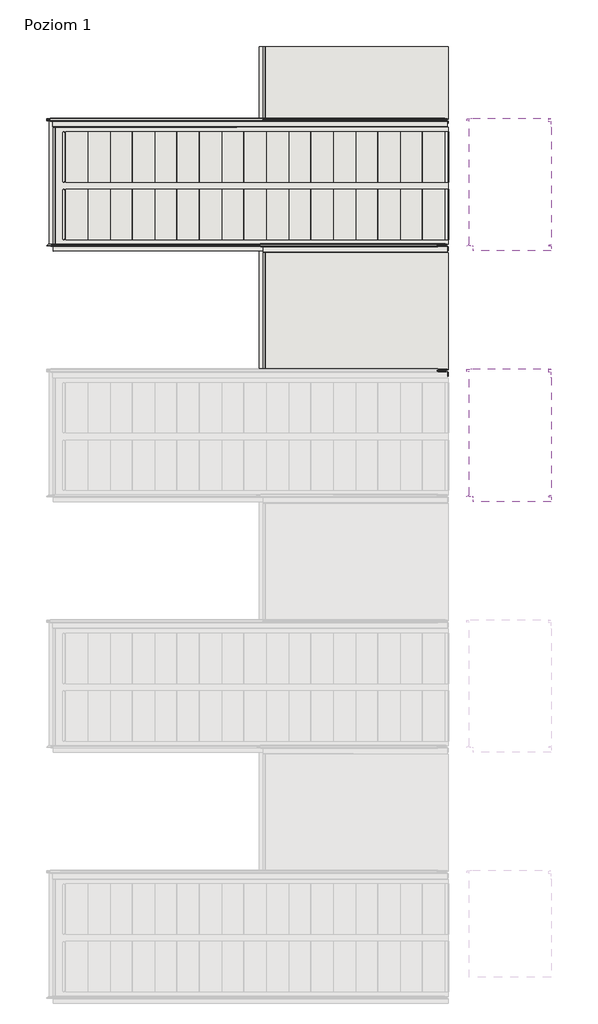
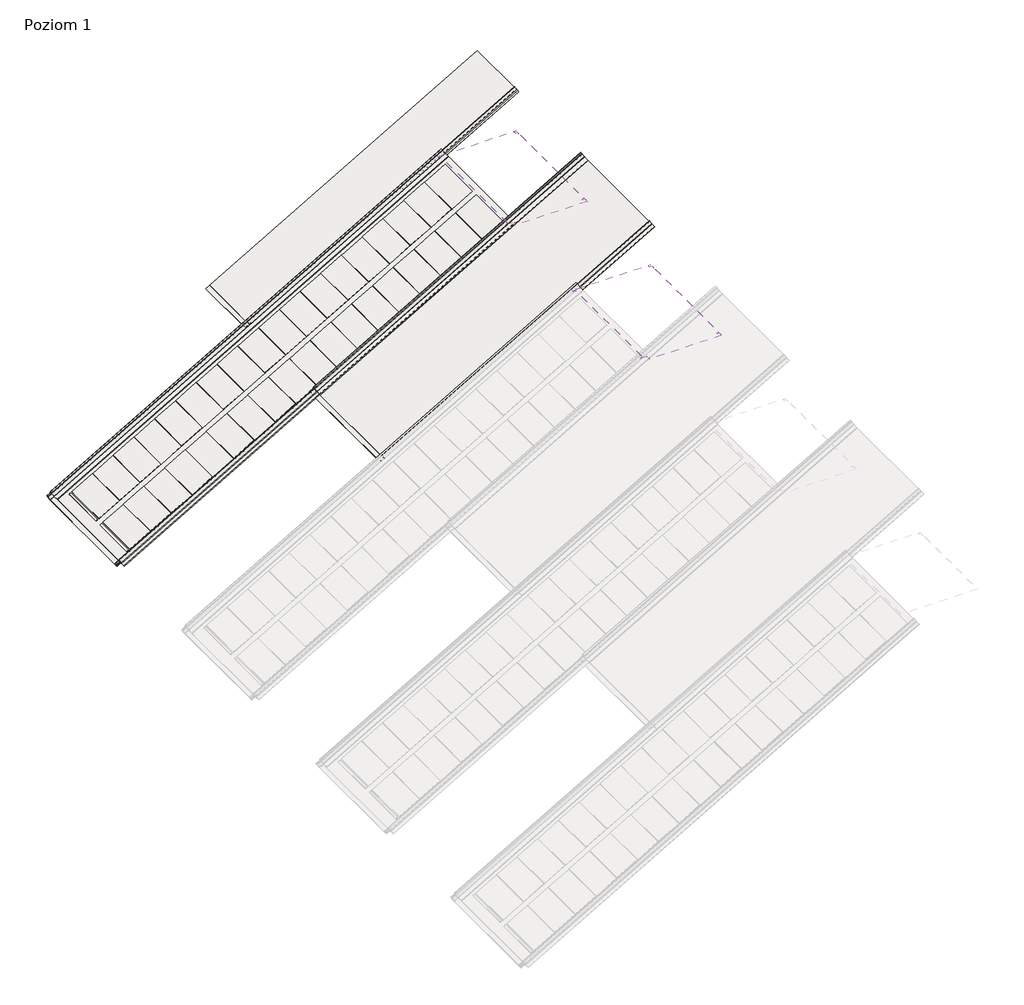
# One storey, part 5 of 5: 5 coverings.
"""IFC4 building model written with IfcOpenShell, lengths in millimetres."""

from ifc_helpers import new_model, si_unit, point, frame, frame_2d, origin, place, context, project, spatial, polyline, circle_curve, trimmed, segment, composite_curve, outline, extrude, transform, mapped, element, save
from components import covering_053faf2b

model = new_model("IFC4")

# Units and contexts
model_context = context("Model", 3, world=origin())
ifc_project = project(units=[si_unit("LENGTHUNIT", "METRE", prefix="MILLI")], contexts=[model_context])

# Site, building, storey
site = spatial("IfcSite", under=ifc_project)
building = spatial("IfcBuilding", under=site)
storey = spatial("IfcBuildingStorey", under=building, Name="Poziom 1", Elevation=3000.0)

# Coverings
placement = place(None, origin())
element("IfcCovering", 1, ObjectType="Zintegrowany dach fotowoltaiczny FIT L.P (pojedynczy arkusz) : Zintegrowany dach fotowoltaiczny FIT L.P (pojedynczy arkusz)", at=placement, inside=storey, context=model_context, shape_type="SweptSolid", body=[
    extrude(outline(composite_curve([segment(polyline([(17.2875351, 0.0), (0.0, 0.0)]), True, "CONTINUOUS"), segment(trimmed(circle_curve(frame_2d((0.0, -2.8)), 2.8), [point((0.0, 0.0))], [point((-2.8, -2.8))], True, "CARTESIAN"), True, "CONTINUOUS"), segment(polyline([(-2.8, -2.8), (-2.8, -20.5940327)]), True, "CONTINUOUS"), segment(trimmed(circle_curve(frame_2d((-4.4133269, -20.3837808)), 1.6269694), [point((-2.8, -20.5940327))], [point((-5.8290282, -21.185541))], False, "CARTESIAN"), True, "CONTINUOUS"), segment(polyline([(-5.8290282, -21.185541), (-11.2859094, -8.622424)]), True, "CONTINUOUS"), segment(trimmed(circle_curve(frame_2d((-9.3224649, -7.4245569)), 2.3), [point((-11.2859094, -8.622424))], [point((-10.3763841, -5.3802344))], False, "CARTESIAN"), True, "CONTINUOUS"), segment(polyline([(-10.3763841, -5.3802344), (-8.7036849, -4.7047108)]), True, "CONTINUOUS"), segment(trimmed(circle_curve(frame_2d((-9.0408607, -3.8698124)), 0.9004126), [point((-8.7036849, -4.7047108))], [point((-8.2514257, -3.4367591))], True, "CARTESIAN"), True, "CONTINUOUS"), segment(polyline([(-8.2514257, -3.4367591), (-10.1366978, 0.0), (-502.4735079, 0.0), (-504.4735079, -2.0), (-527.0645253, -2.0)]), True, "CONTINUOUS"), segment(trimmed(circle_curve(frame_2d((-527.0645253, -2.82435)), 0.82435), [point((-527.0645253, -2.0))], [point((-527.8888753, -2.82435))], True, "CARTESIAN"), True, "CONTINUOUS"), segment(polyline([(-527.8888753, -2.82435), (-527.8888753, -21.4999999)]), True, "CONTINUOUS"), segment(trimmed(circle_curve(frame_2d((-529.8888753, -21.4999999)), 2.0), [point((-527.8888753, -21.4999999))], [point((-529.8888753, -23.5))], False, "CARTESIAN"), True, "CONTINUOUS"), segment(polyline([(-529.8888753, -23.5), (-538.7124649, -23.5)]), True, "CONTINUOUS"), segment(trimmed(circle_curve(frame_2d((-538.7124649, -21.4999999)), 2.0), [point((-538.7124649, -23.5))], [point((-540.7124649, -21.4999999))], False, "CARTESIAN"), True, "CONTINUOUS"), segment(polyline([(-540.7124649, -21.4999999), (-540.7124649, -7.4245569)]), True, "CONTINUOUS"), segment(trimmed(circle_curve(frame_2d((-536.9124649, -7.4245569)), 3.8), [point((-540.7124649, -7.4245569))], [point((-538.602078, -4.0208519))], False, "CARTESIAN"), True, "CONTINUOUS"), segment(trimmed(circle_curve(frame_2d((-539.1177488, -2.9820395)), 1.1597619), [point((-538.602078, -4.0208519))], [point((-537.9725591, -2.798769))], True, "CARTESIAN"), True, "CONTINUOUS"), segment(polyline([(-537.9725591, -2.798769), (-538.8089749, -1.2740237), (-537.9322268, -0.7930739), (-537.1002451, -2.309736)]), True, "CONTINUOUS"), segment(trimmed(circle_curve(frame_2d((-538.6177488, -2.9820395)), 1.6597619), [point((-537.1002451, -2.309736))], [point((-537.8797605, -4.4687078))], False, "CARTESIAN"), True, "CONTINUOUS"), segment(trimmed(circle_curve(frame_2d((-536.4124649, -7.4245569)), 3.3), [point((-537.8797605, -4.4687078))], [point((-539.7124649, -7.4245569))], True, "CARTESIAN"), True, "CONTINUOUS"), segment(polyline([(-539.7124649, -7.4245569), (-539.7124649, -20.9999999)]), True, "CONTINUOUS"), segment(trimmed(circle_curve(frame_2d((-538.2124649, -20.9999999)), 1.5), [point((-539.7124649, -20.9999999))], [point((-538.2124649, -22.4999999))], True, "CARTESIAN"), True, "CONTINUOUS"), segment(polyline([(-538.2124649, -22.4999999), (-530.3888753, -22.4999999)]), True, "CONTINUOUS"), segment(trimmed(circle_curve(frame_2d((-530.3888753, -20.9999999)), 1.5), [point((-530.3888753, -22.4999999))], [point((-528.8888753, -20.9999999))], True, "CARTESIAN"), True, "CONTINUOUS"), segment(polyline([(-528.8888753, -20.9999999), (-528.8888753, -2.7363796)]), True, "CONTINUOUS"), segment(trimmed(circle_curve(frame_2d((-527.09, -2.8)), 1.8), [point((-528.8888753, -2.7363796))], [point((-527.09, -1.0))], False, "CARTESIAN"), True, "CONTINUOUS"), segment(polyline([(-527.09, -1.0), (-504.8877215, -1.0), (-502.8877215, 1.0), (-10.497252, 1.0)]), True, "CONTINUOUS"), segment(trimmed(circle_curve(frame_2d((-10.7205789, -0.9874922)), 2.0), [point((-10.497252, 1.0))], [point((-9.0887306, 0.1688258))], False, "CARTESIAN"), True, "CONTINUOUS"), segment(polyline([(-9.0887306, 0.1688258), (-7.1040334, -3.4491804)]), True, "CONTINUOUS"), segment(trimmed(circle_curve(frame_2d((-8.3318425, -4.1227085)), 1.4004126), [point((-7.1040334, -3.4491804))], [point((-7.8074327, -5.4212269))], False, "CARTESIAN"), True, "CONTINUOUS"), segment(polyline([(-7.8074327, -5.4212269), (-9.9530757, -6.28775)]), True, "CONTINUOUS"), segment(trimmed(circle_curve(frame_2d((-9.3224649, -7.4245569)), 1.3), [point((-9.9530757, -6.28775))], [point((-10.4001629, -8.151583))], True, "CARTESIAN"), True, "CONTINUOUS"), segment(polyline([(-10.4001629, -8.151583), (-4.9378013, -20.7273172)]), True, "CONTINUOUS"), segment(trimmed(circle_curve(frame_2d((-4.4133269, -20.3837808)), 0.6269694), [point((-4.9378013, -20.7273172))], [point((-3.8, -20.5138607))], True, "CARTESIAN"), True, "CONTINUOUS"), segment(polyline([(-3.8, -20.5138607), (-3.8, -2.8)]), True, "CONTINUOUS"), segment(trimmed(circle_curve(frame_2d((0.0, -2.8)), 3.8), [point((-3.8, -2.8))], [point((0.0, 1.0))], False, "CARTESIAN"), True, "CONTINUOUS"), segment(polyline([(0.0, 1.0), (17.2875351, 1.0), (17.2875351, 0.0)]), True, "CONTINUOUS")], self_intersect=False)), frame((597.6506789, -496.5102619, 4261.5544457), z_axis=(0.8660254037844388, 0.0, 0.4999999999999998), x_axis=(0.0, -1.0, 0.0)), (0.0, 0.0, 1.0), 376.4773133),
    extrude(outline(composite_curve([segment(polyline([(28.1680323, -535.9799253), (40.9033235, -530.4482589)]), True, "CONTINUOUS"), segment(trimmed(circle_curve(frame_2d((41.6303496, -531.525957)), 1.3), [point((40.9033235, -530.4482589))], [point((42.7671565, -530.8953461))], False, "CARTESIAN"), True, "CONTINUOUS"), segment(polyline([(42.7671565, -530.8953461), (43.9725969, -533.8801997)]), True, "CONTINUOUS"), segment(trimmed(circle_curve(frame_2d((44.6041589, -533.6251419)), 0.6811204), [point((43.9725969, -533.8801997))], [point((44.9317436, -534.2223129))], True, "CARTESIAN"), True, "CONTINUOUS"), segment(polyline([(44.9317436, -534.2223129), (49.9999999, -531.442065), (49.9999999, -11.6479396)]), True, "CONTINUOUS"), segment(trimmed(circle_curve(frame_2d((49.17565, -11.6479396)), 0.82435), [point((49.9999999, -11.6479396))], [point((49.17565, -10.8235896))], True, "CARTESIAN"), True, "CONTINUOUS"), segment(polyline([(49.17565, -10.8235896), (30.0, -10.8235896)]), True, "CONTINUOUS"), segment(trimmed(circle_curve(frame_2d((30.0, -8.8235896)), 2.0), [point((30.0, -10.8235896))], [point((28.0, -8.8235896))], False, "CARTESIAN"), True, "CONTINUOUS"), segment(polyline([(28.0, -8.8235896), (28.0, -4.0)]), True, "CONTINUOUS"), segment(trimmed(circle_curve(frame_2d((30.0, -4.0)), 2.0), [point((28.0, -4.0))], [point((30.0, -2.0))], False, "CARTESIAN"), True, "CONTINUOUS"), segment(polyline([(30.0, -2.0), (42.075443, -2.0)]), True, "CONTINUOUS"), segment(trimmed(circle_curve(frame_2d((42.075443, -5.8)), 3.8), [point((42.075443, -2.0))], [point((45.479148, -4.1103869))], False, "CARTESIAN"), True, "CONTINUOUS"), segment(trimmed(circle_curve(frame_2d((46.5179605, -3.5947161)), 1.1597619), [point((45.479148, -4.1103869))], [point((46.7012309, -4.7399058))], True, "CARTESIAN"), True, "CONTINUOUS"), segment(polyline([(46.7012309, -4.7399058), (48.2259762, -3.90349), (48.7069261, -4.7802381), (47.190264, -5.6122198)]), True, "CONTINUOUS"), segment(trimmed(circle_curve(frame_2d((46.5179605, -4.0947161)), 1.6597619), [point((47.190264, -5.6122198))], [point((45.0312921, -4.8327044))], False, "CARTESIAN"), True, "CONTINUOUS"), segment(trimmed(circle_curve(frame_2d((42.075443, -6.3)), 3.3), [point((45.0312921, -4.8327044))], [point((42.075443, -3.0))], True, "CARTESIAN"), True, "CONTINUOUS"), segment(polyline([(42.075443, -3.0), (30.5, -3.0)]), True, "CONTINUOUS"), segment(trimmed(circle_curve(frame_2d((30.5, -4.5)), 1.5), [point((30.5, -3.0))], [point((29.0, -4.5))], True, "CARTESIAN"), True, "CONTINUOUS"), segment(polyline([(29.0, -4.5), (29.0, -8.3235896)]), True, "CONTINUOUS"), segment(trimmed(circle_curve(frame_2d((30.5, -8.3235896)), 1.5), [point((29.0, -8.3235896))], [point((30.5, -9.8235896))], True, "CARTESIAN"), True, "CONTINUOUS"), segment(polyline([(30.5, -9.8235896), (49.2636204, -9.8235896)]), True, "CONTINUOUS"), segment(trimmed(circle_curve(frame_2d((49.1999999, -11.6224649)), 1.8), [point((49.2636204, -9.8235896))], [point((50.9999999, -11.6224649))], False, "CARTESIAN"), True, "CONTINUOUS"), segment(polyline([(50.9999999, -11.6224649), (50.9999999, -530.8500476)]), True, "CONTINUOUS"), segment(trimmed(circle_curve(frame_2d((48.9999999, -530.8500476)), 2.0), [point((50.9999999, -530.8500476))], [point((49.9618997, -532.6035438))], False, "CARTESIAN"), True, "CONTINUOUS"), segment(polyline([(49.9618997, -532.6035438), (45.1357072, -535.2510049)]), True, "CONTINUOUS"), segment(trimmed(circle_curve(frame_2d((44.462179, -534.0231958)), 1.4004126), [point((45.1357072, -535.2510049))], [point((43.1636607, -534.5476056))], False, "CARTESIAN"), True, "CONTINUOUS"), segment(polyline([(43.1636607, -534.5476056), (41.792464, -531.152314), (28.7259873, -536.8278332)]), True, "CONTINUOUS"), segment(trimmed(circle_curve(frame_2d((28.5207601, -536.3553487)), 0.5151308), [point((28.7259873, -536.8278332))], [point((28.1680323, -535.9799253))], False, "CARTESIAN"), True, "CONTINUOUS")], self_intersect=False)), frame((555.8301708, 44.202203, 4293.9896904), z_axis=(0.8660254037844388, 0.0, 0.4999999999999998), x_axis=(0.4999999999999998, 0.0, -0.8660254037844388)), (0.0, 0.0, 1.0), 30.0),
])
element("IfcCovering", 2, ObjectType="Zintegrowany dach fotowoltaiczny FIT L.P (pojedynczy arkusz) : Zintegrowany dach fotowoltaiczny FIT L.P (pojedynczy arkusz)", at=placement, inside=storey, context=model_context, shape_type="SweptSolid", body=[
    extrude(outline(composite_curve([segment(polyline([(17.2875351, 0.0), (0.0, 0.0)]), True, "CONTINUOUS"), segment(trimmed(circle_curve(frame_2d((0.0, -2.8)), 2.8), [point((0.0, 0.0))], [point((-2.8, -2.8))], True, "CARTESIAN"), True, "CONTINUOUS"), segment(polyline([(-2.8, -2.8), (-2.8, -20.5940327)]), True, "CONTINUOUS"), segment(trimmed(circle_curve(frame_2d((-4.4133269, -20.3837808)), 1.6269694), [point((-2.8, -20.5940327))], [point((-5.8290282, -21.185541))], False, "CARTESIAN"), True, "CONTINUOUS"), segment(polyline([(-5.8290282, -21.185541), (-11.2859094, -8.622424)]), True, "CONTINUOUS"), segment(trimmed(circle_curve(frame_2d((-9.3224649, -7.4245569)), 2.3), [point((-11.2859094, -8.622424))], [point((-10.3763841, -5.3802344))], False, "CARTESIAN"), True, "CONTINUOUS"), segment(polyline([(-10.3763841, -5.3802344), (-8.7036849, -4.7047108)]), True, "CONTINUOUS"), segment(trimmed(circle_curve(frame_2d((-9.0408607, -3.8698124)), 0.9004126), [point((-8.7036849, -4.7047108))], [point((-8.2514257, -3.4367591))], True, "CARTESIAN"), True, "CONTINUOUS"), segment(polyline([(-8.2514257, -3.4367591), (-10.1366978, 0.0), (-502.4735079, 0.0), (-504.4735079, -2.0), (-527.0645253, -2.0)]), True, "CONTINUOUS"), segment(trimmed(circle_curve(frame_2d((-527.0645253, -2.82435)), 0.82435), [point((-527.0645253, -2.0))], [point((-527.8888753, -2.82435))], True, "CARTESIAN"), True, "CONTINUOUS"), segment(polyline([(-527.8888753, -2.82435), (-527.8888753, -21.4999999)]), True, "CONTINUOUS"), segment(trimmed(circle_curve(frame_2d((-529.8888753, -21.4999999)), 2.0), [point((-527.8888753, -21.4999999))], [point((-529.8888753, -23.5))], False, "CARTESIAN"), True, "CONTINUOUS"), segment(polyline([(-529.8888753, -23.5), (-538.7124649, -23.5)]), True, "CONTINUOUS"), segment(trimmed(circle_curve(frame_2d((-538.7124649, -21.4999999)), 2.0), [point((-538.7124649, -23.5))], [point((-540.7124649, -21.4999999))], False, "CARTESIAN"), True, "CONTINUOUS"), segment(polyline([(-540.7124649, -21.4999999), (-540.7124649, -7.4245569)]), True, "CONTINUOUS"), segment(trimmed(circle_curve(frame_2d((-536.9124649, -7.4245569)), 3.8), [point((-540.7124649, -7.4245569))], [point((-538.602078, -4.0208519))], False, "CARTESIAN"), True, "CONTINUOUS"), segment(trimmed(circle_curve(frame_2d((-539.1177488, -2.9820394)), 1.1597619), [point((-538.602078, -4.0208519))], [point((-537.9725591, -2.798769))], True, "CARTESIAN"), True, "CONTINUOUS"), segment(polyline([(-537.9725591, -2.798769), (-538.8089749, -1.2740237), (-537.9322268, -0.7930738), (-537.1002451, -2.3097359)]), True, "CONTINUOUS"), segment(trimmed(circle_curve(frame_2d((-538.6177488, -2.9820394)), 1.6597619), [point((-537.1002451, -2.3097359))], [point((-537.8797605, -4.4687078))], False, "CARTESIAN"), True, "CONTINUOUS"), segment(trimmed(circle_curve(frame_2d((-536.4124649, -7.4245569)), 3.3), [point((-537.8797605, -4.4687078))], [point((-539.7124649, -7.4245569))], True, "CARTESIAN"), True, "CONTINUOUS"), segment(polyline([(-539.7124649, -7.4245569), (-539.7124649, -20.9999999)]), True, "CONTINUOUS"), segment(trimmed(circle_curve(frame_2d((-538.2124649, -20.9999999)), 1.5), [point((-539.7124649, -20.9999999))], [point((-538.2124649, -22.4999999))], True, "CARTESIAN"), True, "CONTINUOUS"), segment(polyline([(-538.2124649, -22.4999999), (-530.3888753, -22.4999999)]), True, "CONTINUOUS"), segment(trimmed(circle_curve(frame_2d((-530.3888753, -20.9999999)), 1.5), [point((-530.3888753, -22.4999999))], [point((-528.8888753, -20.9999999))], True, "CARTESIAN"), True, "CONTINUOUS"), segment(polyline([(-528.8888753, -20.9999999), (-528.8888753, -2.7363796)]), True, "CONTINUOUS"), segment(trimmed(circle_curve(frame_2d((-527.09, -2.8)), 1.8), [point((-528.8888753, -2.7363796))], [point((-527.09, -1.0))], False, "CARTESIAN"), True, "CONTINUOUS"), segment(polyline([(-527.09, -1.0), (-504.8877215, -1.0), (-502.8877215, 1.0), (-10.497252, 1.0)]), True, "CONTINUOUS"), segment(trimmed(circle_curve(frame_2d((-10.7205789, -0.9874921)), 2.0), [point((-10.497252, 1.0))], [point((-9.0887306, 0.1688258))], False, "CARTESIAN"), True, "CONTINUOUS"), segment(polyline([(-9.0887306, 0.1688258), (-7.1040334, -3.4491804)]), True, "CONTINUOUS"), segment(trimmed(circle_curve(frame_2d((-8.3318425, -4.1227085)), 1.4004126), [point((-7.1040334, -3.4491804))], [point((-7.8074327, -5.4212269))], False, "CARTESIAN"), True, "CONTINUOUS"), segment(polyline([(-7.8074327, -5.4212269), (-9.9530757, -6.2877499)]), True, "CONTINUOUS"), segment(trimmed(circle_curve(frame_2d((-9.3224649, -7.4245569)), 1.3), [point((-9.9530757, -6.2877499))], [point((-10.4001629, -8.151583))], True, "CARTESIAN"), True, "CONTINUOUS"), segment(polyline([(-10.4001629, -8.151583), (-4.9378013, -20.7273172)]), True, "CONTINUOUS"), segment(trimmed(circle_curve(frame_2d((-4.4133269, -20.3837808)), 0.6269694), [point((-4.9378013, -20.7273172))], [point((-3.8, -20.5138607))], True, "CARTESIAN"), True, "CONTINUOUS"), segment(polyline([(-3.8, -20.5138607), (-3.8, -2.8)]), True, "CONTINUOUS"), segment(trimmed(circle_curve(frame_2d((0.0, -2.8)), 3.8), [point((-3.8, -2.8))], [point((0.0, 1.0))], False, "CARTESIAN"), True, "CONTINUOUS"), segment(polyline([(0.0, 1.0), (17.2875351, 1.0), (17.2875351, 0.0)]), True, "CONTINUOUS")], self_intersect=False)), frame((-285.695233, 30.4897381, 3751.5544457), z_axis=(0.8660254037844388, 0.0, 0.4999999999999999), x_axis=(0.0, -1.0, 0.0)), (0.0, 0.0, 1.0), 1396.4773133),
    extrude(outline(composite_curve([segment(polyline([(28.1680322, -535.9799253), (40.9033234, -530.4482589)]), True, "CONTINUOUS"), segment(trimmed(circle_curve(frame_2d((41.6303496, -531.525957)), 1.3), [point((40.9033234, -530.4482589))], [point((42.7671565, -530.8953461))], False, "CARTESIAN"), True, "CONTINUOUS"), segment(polyline([(42.7671565, -530.8953461), (43.9725969, -533.8801997)]), True, "CONTINUOUS"), segment(trimmed(circle_curve(frame_2d((44.6041589, -533.6251419)), 0.6811204), [point((43.9725969, -533.8801997))], [point((44.9317436, -534.2223129))], True, "CARTESIAN"), True, "CONTINUOUS"), segment(polyline([(44.9317436, -534.2223129), (49.9999999, -531.442065), (49.9999999, -11.6479396)]), True, "CONTINUOUS"), segment(trimmed(circle_curve(frame_2d((49.17565, -11.6479396)), 0.82435), [point((49.9999999, -11.6479396))], [point((49.17565, -10.8235896))], True, "CARTESIAN"), True, "CONTINUOUS"), segment(polyline([(49.17565, -10.8235896), (30.0, -10.8235896)]), True, "CONTINUOUS"), segment(trimmed(circle_curve(frame_2d((30.0, -8.8235896)), 2.0), [point((30.0, -10.8235896))], [point((28.0, -8.8235896))], False, "CARTESIAN"), True, "CONTINUOUS"), segment(polyline([(28.0, -8.8235896), (28.0, -4.0)]), True, "CONTINUOUS"), segment(trimmed(circle_curve(frame_2d((30.0, -4.0)), 2.0), [point((28.0, -4.0))], [point((30.0, -2.0))], False, "CARTESIAN"), True, "CONTINUOUS"), segment(polyline([(30.0, -2.0), (42.075443, -2.0)]), True, "CONTINUOUS"), segment(trimmed(circle_curve(frame_2d((42.075443, -5.8)), 3.8), [point((42.075443, -2.0))], [point((45.479148, -4.1103869))], False, "CARTESIAN"), True, "CONTINUOUS"), segment(trimmed(circle_curve(frame_2d((46.5179605, -3.5947161)), 1.1597619), [point((45.479148, -4.1103869))], [point((46.7012308, -4.7399058))], True, "CARTESIAN"), True, "CONTINUOUS"), segment(polyline([(46.7012308, -4.7399058), (48.2259762, -3.90349), (48.706926, -4.7802381), (47.190264, -5.6122198)]), True, "CONTINUOUS"), segment(trimmed(circle_curve(frame_2d((46.5179605, -4.0947161)), 1.6597619), [point((47.190264, -5.6122198))], [point((45.0312921, -4.8327044))], False, "CARTESIAN"), True, "CONTINUOUS"), segment(trimmed(circle_curve(frame_2d((42.075443, -6.3)), 3.3), [point((45.0312921, -4.8327044))], [point((42.075443, -3.0))], True, "CARTESIAN"), True, "CONTINUOUS"), segment(polyline([(42.075443, -3.0), (30.5, -3.0)]), True, "CONTINUOUS"), segment(trimmed(circle_curve(frame_2d((30.5, -4.5)), 1.5), [point((30.5, -3.0))], [point((29.0, -4.5))], True, "CARTESIAN"), True, "CONTINUOUS"), segment(polyline([(29.0, -4.5), (29.0, -8.3235896)]), True, "CONTINUOUS"), segment(trimmed(circle_curve(frame_2d((30.5, -8.3235896)), 1.5), [point((29.0, -8.3235896))], [point((30.5, -9.8235896))], True, "CARTESIAN"), True, "CONTINUOUS"), segment(polyline([(30.5, -9.8235896), (49.2636204, -9.8235896)]), True, "CONTINUOUS"), segment(trimmed(circle_curve(frame_2d((49.1999999, -11.6224649)), 1.8), [point((49.2636204, -9.8235896))], [point((50.9999999, -11.6224649))], False, "CARTESIAN"), True, "CONTINUOUS"), segment(polyline([(50.9999999, -11.6224649), (50.9999999, -530.8500476)]), True, "CONTINUOUS"), segment(trimmed(circle_curve(frame_2d((48.9999999, -530.8500476)), 2.0), [point((50.9999999, -530.8500476))], [point((49.9618996, -532.6035438))], False, "CARTESIAN"), True, "CONTINUOUS"), segment(polyline([(49.9618996, -532.6035438), (45.1357072, -535.2510049)]), True, "CONTINUOUS"), segment(trimmed(circle_curve(frame_2d((44.462179, -534.0231958)), 1.4004126), [point((45.1357072, -535.2510049))], [point((43.1636607, -534.5476056))], False, "CARTESIAN"), True, "CONTINUOUS"), segment(polyline([(43.1636607, -534.5476056), (41.792464, -531.152314), (28.7259872, -536.8278332)]), True, "CONTINUOUS"), segment(trimmed(circle_curve(frame_2d((28.5207601, -536.3553487)), 0.5151308), [point((28.7259872, -536.8278332))], [point((28.1680322, -535.9799253))], False, "CARTESIAN"), True, "CONTINUOUS")], self_intersect=False)), frame((-327.515741, 571.202203, 3783.9896904), z_axis=(0.8660254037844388, 0.0, 0.4999999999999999), x_axis=(0.4999999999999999, 0.0, -0.8660254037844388)), (0.0, 0.0, 1.0), 30.0),
])
element("IfcCovering", 3, ObjectType="Zintegrowany dach fotowoltaiczny FIT L.P (pojedynczy arkusz) : Zintegrowany dach fotowoltaiczny FIT L.P (pojedynczy arkusz)", at=placement, inside=storey, context=model_context, shape_type="SweptSolid", body=[
    extrude(outline(composite_curve([segment(polyline([(17.2875351, 0.0), (0.0, 0.0)]), True, "CONTINUOUS"), segment(trimmed(circle_curve(frame_2d((0.0, -2.8)), 2.8), [point((0.0, 0.0))], [point((-2.8, -2.8))], True, "CARTESIAN"), True, "CONTINUOUS"), segment(polyline([(-2.8, -2.8), (-2.8, -20.5940327)]), True, "CONTINUOUS"), segment(trimmed(circle_curve(frame_2d((-4.4133269, -20.3837808)), 1.6269694), [point((-2.8, -20.5940327))], [point((-5.8290282, -21.185541))], False, "CARTESIAN"), True, "CONTINUOUS"), segment(polyline([(-5.8290282, -21.185541), (-11.2859094, -8.622424)]), True, "CONTINUOUS"), segment(trimmed(circle_curve(frame_2d((-9.3224649, -7.4245569)), 2.3), [point((-11.2859094, -8.622424))], [point((-10.3763841, -5.3802344))], False, "CARTESIAN"), True, "CONTINUOUS"), segment(polyline([(-10.3763841, -5.3802344), (-8.7036849, -4.7047108)]), True, "CONTINUOUS"), segment(trimmed(circle_curve(frame_2d((-9.0408607, -3.8698124)), 0.9004126), [point((-8.7036849, -4.7047108))], [point((-8.2514257, -3.4367591))], True, "CARTESIAN"), True, "CONTINUOUS"), segment(polyline([(-8.2514257, -3.4367591), (-10.1366978, 0.0), (-502.4735079, 0.0), (-504.4735079, -2.0), (-527.0645253, -2.0)]), True, "CONTINUOUS"), segment(trimmed(circle_curve(frame_2d((-527.0645253, -2.82435)), 0.82435), [point((-527.0645253, -2.0))], [point((-527.8888753, -2.82435))], True, "CARTESIAN"), True, "CONTINUOUS"), segment(polyline([(-527.8888753, -2.82435), (-527.8888753, -21.4999999)]), True, "CONTINUOUS"), segment(trimmed(circle_curve(frame_2d((-529.8888753, -21.4999999)), 2.0), [point((-527.8888753, -21.4999999))], [point((-529.8888753, -23.5))], False, "CARTESIAN"), True, "CONTINUOUS"), segment(polyline([(-529.8888753, -23.5), (-538.7124649, -23.5)]), True, "CONTINUOUS"), segment(trimmed(circle_curve(frame_2d((-538.7124649, -21.4999999)), 2.0), [point((-538.7124649, -23.5))], [point((-540.7124649, -21.4999999))], False, "CARTESIAN"), True, "CONTINUOUS"), segment(polyline([(-540.7124649, -21.4999999), (-540.7124649, -7.4245569)]), True, "CONTINUOUS"), segment(trimmed(circle_curve(frame_2d((-536.9124649, -7.4245569)), 3.8), [point((-540.7124649, -7.4245569))], [point((-538.602078, -4.0208519))], False, "CARTESIAN"), True, "CONTINUOUS"), segment(trimmed(circle_curve(frame_2d((-539.1177488, -2.9820395)), 1.1597619), [point((-538.602078, -4.0208519))], [point((-537.9725591, -2.798769))], True, "CARTESIAN"), True, "CONTINUOUS"), segment(polyline([(-537.9725591, -2.798769), (-538.8089749, -1.2740237), (-537.9322268, -0.7930739), (-537.1002451, -2.309736)]), True, "CONTINUOUS"), segment(trimmed(circle_curve(frame_2d((-538.6177488, -2.9820395)), 1.6597619), [point((-537.1002451, -2.309736))], [point((-537.8797605, -4.4687078))], False, "CARTESIAN"), True, "CONTINUOUS"), segment(trimmed(circle_curve(frame_2d((-536.4124649, -7.4245569)), 3.3), [point((-537.8797605, -4.4687078))], [point((-539.7124649, -7.4245569))], True, "CARTESIAN"), True, "CONTINUOUS"), segment(polyline([(-539.7124649, -7.4245569), (-539.7124649, -20.9999999)]), True, "CONTINUOUS"), segment(trimmed(circle_curve(frame_2d((-538.2124649, -20.9999999)), 1.5), [point((-539.7124649, -20.9999999))], [point((-538.2124649, -22.4999999))], True, "CARTESIAN"), True, "CONTINUOUS"), segment(polyline([(-538.2124649, -22.4999999), (-530.3888753, -22.4999999)]), True, "CONTINUOUS"), segment(trimmed(circle_curve(frame_2d((-530.3888753, -20.9999999)), 1.5), [point((-530.3888753, -22.4999999))], [point((-528.8888753, -20.9999999))], True, "CARTESIAN"), True, "CONTINUOUS"), segment(polyline([(-528.8888753, -20.9999999), (-528.8888753, -2.7363796)]), True, "CONTINUOUS"), segment(trimmed(circle_curve(frame_2d((-527.09, -2.8)), 1.8), [point((-528.8888753, -2.7363796))], [point((-527.09, -1.0))], False, "CARTESIAN"), True, "CONTINUOUS"), segment(polyline([(-527.09, -1.0), (-504.8877215, -1.0), (-502.8877215, 1.0), (-10.497252, 1.0)]), True, "CONTINUOUS"), segment(trimmed(circle_curve(frame_2d((-10.7205789, -0.9874922)), 2.0), [point((-10.497252, 1.0))], [point((-9.0887306, 0.1688258))], False, "CARTESIAN"), True, "CONTINUOUS"), segment(polyline([(-9.0887306, 0.1688258), (-7.1040334, -3.4491804)]), True, "CONTINUOUS"), segment(trimmed(circle_curve(frame_2d((-8.3318425, -4.1227085)), 1.4004126), [point((-7.1040334, -3.4491804))], [point((-7.8074327, -5.4212269))], False, "CARTESIAN"), True, "CONTINUOUS"), segment(polyline([(-7.8074327, -5.4212269), (-9.9530757, -6.28775)]), True, "CONTINUOUS"), segment(trimmed(circle_curve(frame_2d((-9.3224649, -7.4245569)), 1.3), [point((-9.9530757, -6.28775))], [point((-10.4001629, -8.151583))], True, "CARTESIAN"), True, "CONTINUOUS"), segment(polyline([(-10.4001629, -8.151583), (-4.9378013, -20.7273172)]), True, "CONTINUOUS"), segment(trimmed(circle_curve(frame_2d((-4.4133269, -20.3837808)), 0.6269694), [point((-4.9378013, -20.7273172))], [point((-3.8, -20.5138607))], True, "CARTESIAN"), True, "CONTINUOUS"), segment(polyline([(-3.8, -20.5138607), (-3.8, -2.8)]), True, "CONTINUOUS"), segment(trimmed(circle_curve(frame_2d((0.0, -2.8)), 3.8), [point((-3.8, -2.8))], [point((0.0, 1.0))], False, "CARTESIAN"), True, "CONTINUOUS"), segment(polyline([(0.0, 1.0), (17.2875351, 1.0), (17.2875351, 0.0)]), True, "CONTINUOUS")], self_intersect=False)), frame((597.6506789, 557.4897381, 4261.5544457), z_axis=(0.8660254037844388, 0.0, 0.4999999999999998), x_axis=(0.0, -1.0, 0.0)), (0.0, 0.0, 1.0), 376.4773133),
    extrude(outline(composite_curve([segment(polyline([(28.1680323, -535.9799253), (40.9033235, -530.4482589)]), True, "CONTINUOUS"), segment(trimmed(circle_curve(frame_2d((41.6303496, -531.525957)), 1.3), [point((40.9033235, -530.4482589))], [point((42.7671565, -530.8953461))], False, "CARTESIAN"), True, "CONTINUOUS"), segment(polyline([(42.7671565, -530.8953461), (43.9725969, -533.8801997)]), True, "CONTINUOUS"), segment(trimmed(circle_curve(frame_2d((44.6041589, -533.6251419)), 0.6811204), [point((43.9725969, -533.8801997))], [point((44.9317436, -534.2223129))], True, "CARTESIAN"), True, "CONTINUOUS"), segment(polyline([(44.9317436, -534.2223129), (49.9999999, -531.442065), (49.9999999, -11.6479396)]), True, "CONTINUOUS"), segment(trimmed(circle_curve(frame_2d((49.17565, -11.6479396)), 0.82435), [point((49.9999999, -11.6479396))], [point((49.17565, -10.8235896))], True, "CARTESIAN"), True, "CONTINUOUS"), segment(polyline([(49.17565, -10.8235896), (30.0, -10.8235896)]), True, "CONTINUOUS"), segment(trimmed(circle_curve(frame_2d((30.0, -8.8235896)), 2.0), [point((30.0, -10.8235896))], [point((28.0, -8.8235896))], False, "CARTESIAN"), True, "CONTINUOUS"), segment(polyline([(28.0, -8.8235896), (28.0, -4.0)]), True, "CONTINUOUS"), segment(trimmed(circle_curve(frame_2d((30.0, -4.0)), 2.0), [point((28.0, -4.0))], [point((30.0, -2.0))], False, "CARTESIAN"), True, "CONTINUOUS"), segment(polyline([(30.0, -2.0), (42.075443, -2.0)]), True, "CONTINUOUS"), segment(trimmed(circle_curve(frame_2d((42.075443, -5.8)), 3.8), [point((42.075443, -2.0))], [point((45.479148, -4.1103869))], False, "CARTESIAN"), True, "CONTINUOUS"), segment(trimmed(circle_curve(frame_2d((46.5179605, -3.5947161)), 1.1597619), [point((45.479148, -4.1103869))], [point((46.7012309, -4.7399058))], True, "CARTESIAN"), True, "CONTINUOUS"), segment(polyline([(46.7012309, -4.7399058), (48.2259762, -3.90349), (48.7069261, -4.7802381), (47.190264, -5.6122198)]), True, "CONTINUOUS"), segment(trimmed(circle_curve(frame_2d((46.5179605, -4.0947161)), 1.6597619), [point((47.190264, -5.6122198))], [point((45.0312921, -4.8327044))], False, "CARTESIAN"), True, "CONTINUOUS"), segment(trimmed(circle_curve(frame_2d((42.075443, -6.3)), 3.3), [point((45.0312921, -4.8327044))], [point((42.075443, -3.0))], True, "CARTESIAN"), True, "CONTINUOUS"), segment(polyline([(42.075443, -3.0), (30.5, -3.0)]), True, "CONTINUOUS"), segment(trimmed(circle_curve(frame_2d((30.5, -4.5)), 1.5), [point((30.5, -3.0))], [point((29.0, -4.5))], True, "CARTESIAN"), True, "CONTINUOUS"), segment(polyline([(29.0, -4.5), (29.0, -8.3235896)]), True, "CONTINUOUS"), segment(trimmed(circle_curve(frame_2d((30.5, -8.3235896)), 1.5), [point((29.0, -8.3235896))], [point((30.5, -9.8235896))], True, "CARTESIAN"), True, "CONTINUOUS"), segment(polyline([(30.5, -9.8235896), (49.2636204, -9.8235896)]), True, "CONTINUOUS"), segment(trimmed(circle_curve(frame_2d((49.1999999, -11.6224649)), 1.8), [point((49.2636204, -9.8235896))], [point((50.9999999, -11.6224649))], False, "CARTESIAN"), True, "CONTINUOUS"), segment(polyline([(50.9999999, -11.6224649), (50.9999999, -530.8500476)]), True, "CONTINUOUS"), segment(trimmed(circle_curve(frame_2d((48.9999999, -530.8500476)), 2.0), [point((50.9999999, -530.8500476))], [point((49.9618997, -532.6035438))], False, "CARTESIAN"), True, "CONTINUOUS"), segment(polyline([(49.9618997, -532.6035438), (45.1357072, -535.2510049)]), True, "CONTINUOUS"), segment(trimmed(circle_curve(frame_2d((44.462179, -534.0231958)), 1.4004126), [point((45.1357072, -535.2510049))], [point((43.1636607, -534.5476056))], False, "CARTESIAN"), True, "CONTINUOUS"), segment(polyline([(43.1636607, -534.5476056), (41.792464, -531.152314), (28.7259873, -536.8278332)]), True, "CONTINUOUS"), segment(trimmed(circle_curve(frame_2d((28.5207601, -536.3553487)), 0.5151308), [point((28.7259873, -536.8278332))], [point((28.1680323, -535.9799253))], False, "CARTESIAN"), True, "CONTINUOUS")], self_intersect=False)), frame((555.8301708, 1098.202203, 4293.9896904), z_axis=(0.8660254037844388, 0.0, 0.4999999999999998), x_axis=(0.4999999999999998, 0.0, -0.8660254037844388)), (0.0, 0.0, 1.0), 30.0),
])
element("IfcCovering", 4, ObjectType="Zintegrowany dach fotowoltaiczny FIT L.P (pojedynczy arkusz) : Zintegrowany dach fotowoltaiczny FIT L.P (pojedynczy arkusz)", at=placement, inside=storey, context=model_context, shape_type="SweptSolid", body=[
    extrude(outline(composite_curve([segment(trimmed(circle_curve(frame_2d((0.0, -2.8)), 2.8), [point((0.0, 0.0))], [point((-2.8, -2.8))], True, "CARTESIAN"), True, "CONTINUOUS"), segment(polyline([(-2.8, -2.8), (-2.8, -20.5940327)]), True, "CONTINUOUS"), segment(trimmed(circle_curve(frame_2d((-4.4133269, -20.3837808)), 1.6269694), [point((-2.8, -20.5940327))], [point((-5.8290282, -21.185541))], False, "CARTESIAN"), True, "CONTINUOUS"), segment(polyline([(-5.8290282, -21.185541), (-11.2859094, -8.622424)]), True, "CONTINUOUS"), segment(trimmed(circle_curve(frame_2d((-9.3224649, -7.4245569)), 2.3), [point((-11.2859094, -8.622424))], [point((-10.3763841, -5.3802344))], False, "CARTESIAN"), True, "CONTINUOUS"), segment(polyline([(-10.3763841, -5.3802344), (-8.7036849, -4.7047108)]), True, "CONTINUOUS"), segment(trimmed(circle_curve(frame_2d((-9.0408607, -3.8698124)), 0.9004126), [point((-8.7036849, -4.7047108))], [point((-8.2514257, -3.4367591))], True, "CARTESIAN"), True, "CONTINUOUS"), segment(polyline([(-8.2514257, -3.4367591), (-10.1366978, 0.0), (-315.1006701, 0.0), (-315.1006701, 1.0), (-10.497252, 1.0)]), True, "CONTINUOUS"), segment(trimmed(circle_curve(frame_2d((-10.7205789, -0.9874921)), 2.0), [point((-10.497252, 1.0))], [point((-9.0887306, 0.1688258))], False, "CARTESIAN"), True, "CONTINUOUS"), segment(polyline([(-9.0887306, 0.1688258), (-7.1040334, -3.4491804)]), True, "CONTINUOUS"), segment(trimmed(circle_curve(frame_2d((-8.3318425, -4.1227085)), 1.4004126), [point((-7.1040334, -3.4491804))], [point((-7.8074327, -5.4212269))], False, "CARTESIAN"), True, "CONTINUOUS"), segment(polyline([(-7.8074327, -5.4212269), (-9.9530757, -6.2877499)]), True, "CONTINUOUS"), segment(trimmed(circle_curve(frame_2d((-9.3224649, -7.4245569)), 1.3), [point((-9.9530757, -6.2877499))], [point((-10.4001629, -8.151583))], True, "CARTESIAN"), True, "CONTINUOUS"), segment(polyline([(-10.4001629, -8.151583), (-4.9378013, -20.7273172)]), True, "CONTINUOUS"), segment(trimmed(circle_curve(frame_2d((-4.4133269, -20.3837808)), 0.6269694), [point((-4.9378013, -20.7273172))], [point((-3.8, -20.5138607))], True, "CARTESIAN"), True, "CONTINUOUS"), segment(polyline([(-3.8, -20.5138607), (-3.8, -2.8)]), True, "CONTINUOUS"), segment(trimmed(circle_curve(frame_2d((0.0, -2.8)), 3.8), [point((-3.8, -2.8))], [point((0.0, 1.0))], False, "CARTESIAN"), True, "CONTINUOUS"), segment(polyline([(0.0, 1.0), (8.0893299, 1.0), (8.0893299, 0.0), (0.0, 0.0)]), True, "CONTINUOUS")], self_intersect=False)), frame((-285.695233, 1084.4897381, 3751.5544457), z_axis=(0.8660254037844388, 0.0, 0.49999999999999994), x_axis=(0.0, -1.0, 0.0)), (0.0, 0.0, 1.0), 1396.4773133),
    extrude(outline(composite_curve([segment(polyline([(28.1680322, -535.9799253), (40.9033234, -530.4482589)]), True, "CONTINUOUS"), segment(trimmed(circle_curve(frame_2d((41.6303496, -531.525957)), 1.3), [point((40.9033234, -530.4482589))], [point((42.7671565, -530.8953461))], False, "CARTESIAN"), True, "CONTINUOUS"), segment(polyline([(42.7671565, -530.8953461), (43.9725969, -533.8801997)]), True, "CONTINUOUS"), segment(trimmed(circle_curve(frame_2d((44.6041589, -533.6251419)), 0.6811204), [point((43.9725969, -533.8801997))], [point((44.9317436, -534.2223129))], True, "CARTESIAN"), True, "CONTINUOUS"), segment(polyline([(44.9317436, -534.2223129), (49.9999999, -531.442065), (49.9999999, -225.6117948), (50.9999999, -225.6117948), (50.9999999, -530.8500476)]), True, "CONTINUOUS"), segment(trimmed(circle_curve(frame_2d((48.9999999, -530.8500476)), 2.0), [point((50.9999999, -530.8500476))], [point((49.9618996, -532.6035438))], False, "CARTESIAN"), True, "CONTINUOUS"), segment(polyline([(49.9618996, -532.6035438), (45.1357072, -535.2510049)]), True, "CONTINUOUS"), segment(trimmed(circle_curve(frame_2d((44.462179, -534.0231958)), 1.4004126), [point((45.1357072, -535.2510049))], [point((43.1636607, -534.5476056))], False, "CARTESIAN"), True, "CONTINUOUS"), segment(polyline([(43.1636607, -534.5476056), (41.792464, -531.152314), (28.7259872, -536.8278332)]), True, "CONTINUOUS"), segment(trimmed(circle_curve(frame_2d((28.5207601, -536.3553487)), 0.5151308), [point((28.7259872, -536.8278332))], [point((28.1680322, -535.9799253))], False, "CARTESIAN"), True, "CONTINUOUS")], self_intersect=False)), frame((-327.515741, 1625.202203, 3783.9896904), z_axis=(0.8660254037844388, 0.0, 0.49999999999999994), x_axis=(0.49999999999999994, 0.0, -0.8660254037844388)), (0.0, 0.0, 1.0), 30.0),
])
covering_shape = covering_053faf2b(model_context)
element("IfcCovering", 5, ObjectType="Zintegrowany dach fotowoltaiczny FIT VOLT (pojedynczy arkusz) : Zintegrowany dach fotowoltaiczny FIT VOLT (pojedynczy arkusz)", at=placement, inside=storey, context=model_context, shape_type="MappedRepresentation", body=[
    mapped(covering_shape, transform((186.7886121, 564.7904082, 4023.1884203), x_axis=(0.8660254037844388, 0.0, 0.4999999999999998), y_axis=(0.0, 1.0000000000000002, 0.0), z_axis=(-0.4999999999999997, 0.0, 0.8660254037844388))),
])

save(model, "model.ifc")
